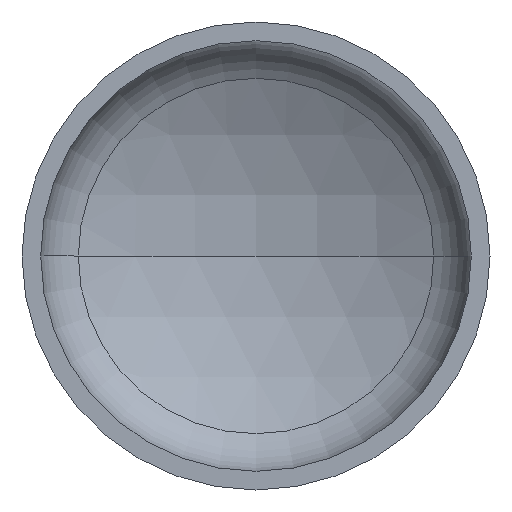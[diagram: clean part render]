
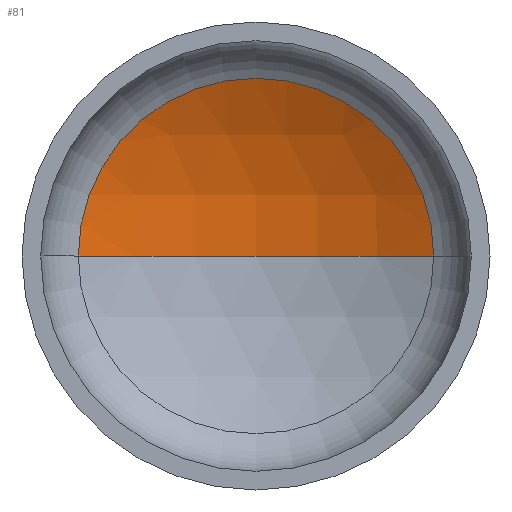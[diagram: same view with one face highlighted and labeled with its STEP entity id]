
A CAD part, front view. The second image highlights one B-rep face of the part: STEP entity #81.
In plain terms, the highlighted spherical face has radius 1440 mm.
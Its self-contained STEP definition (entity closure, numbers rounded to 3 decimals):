
#6 = VERTEX_POINT ( 'NONE', #206 ) ;
#8 = ORIENTED_EDGE ( 'NONE', *, *, #76, .T. ) ;
#12 = CIRCLE ( 'NONE', #374, 683.536 ) ;
#31 = AXIS2_PLACEMENT_3D ( 'NONE', #313, #160, #402 ) ;
#32 = EDGE_LOOP ( 'NONE', ( #50, #44, #8 ) ) ;
#38 = VERTEX_POINT ( 'NONE', #92 ) ;
#44 = ORIENTED_EDGE ( 'NONE', *, *, #79, .T. ) ;
#50 = ORIENTED_EDGE ( 'NONE', *, *, #351, .F. ) ;
#76 = EDGE_CURVE ( 'NONE', #38, #6, #12, .T. ) ;
#79 = EDGE_CURVE ( 'NONE', #105, #38, #302, .T. ) ;
#81 = ADVANCED_FACE ( 'NONE', ( #355 ), #292, .F. ) ;
#92 = CARTESIAN_POINT ( 'NONE',  ( 683.536, 362.044, 0. ) ) ;
#105 = VERTEX_POINT ( 'NONE', #142 ) ;
#137 = DIRECTION ( 'NONE',  ( 0., 0., 1. ) ) ;
#142 = CARTESIAN_POINT ( 'NONE',  ( 0., 534.614, 0. ) ) ;
#160 = DIRECTION ( 'NONE',  ( 0., 0., -1. ) ) ;
#186 = CARTESIAN_POINT ( 'NONE',  ( 0., 362.044, 0. ) ) ;
#206 = CARTESIAN_POINT ( 'NONE',  ( -683.536, 362.044, 0. ) ) ;
#211 = DIRECTION ( 'NONE',  ( 1., 0., 0. ) ) ;
#235 = DIRECTION ( 'NONE',  ( -1., 0., 0. ) ) ;
#243 = DIRECTION ( 'NONE',  ( 1., 0., 0. ) ) ;
#292 = SPHERICAL_SURFACE ( 'NONE', #31, 1440. ) ;
#293 = CARTESIAN_POINT ( 'NONE',  ( 0., -905.386, 0. ) ) ;
#302 = CIRCLE ( 'NONE', #390, 1440. ) ;
#313 = CARTESIAN_POINT ( 'NONE',  ( 0., -905.386, 0. ) ) ;
#341 = CARTESIAN_POINT ( 'NONE',  ( 0., -905.386, 0. ) ) ;
#351 = EDGE_CURVE ( 'NONE', #105, #6, #373, .T. ) ;
#355 = FACE_OUTER_BOUND ( 'NONE', #32, .T. ) ;
#359 = DIRECTION ( 'NONE',  ( 0., -1., 0. ) ) ;
#370 = AXIS2_PLACEMENT_3D ( 'NONE', #293, #137, #243 ) ;
#373 = CIRCLE ( 'NONE', #370, 1440. ) ;
#374 = AXIS2_PLACEMENT_3D ( 'NONE', #186, #359, #211 ) ;
#380 = DIRECTION ( 'NONE',  ( 0., 0., -1. ) ) ;
#390 = AXIS2_PLACEMENT_3D ( 'NONE', #341, #380, #235 ) ;
#402 = DIRECTION ( 'NONE',  ( -1., 0., 0. ) ) ;
